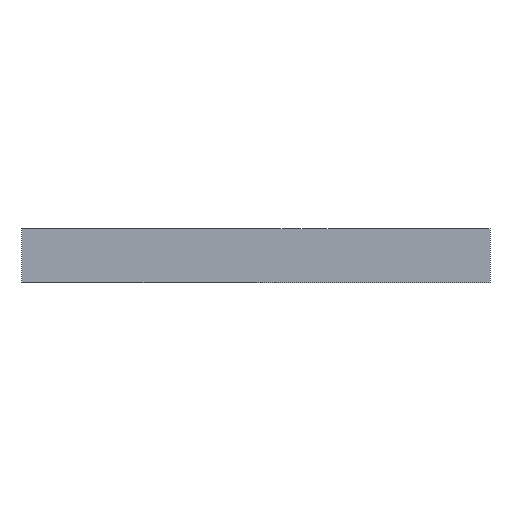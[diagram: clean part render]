
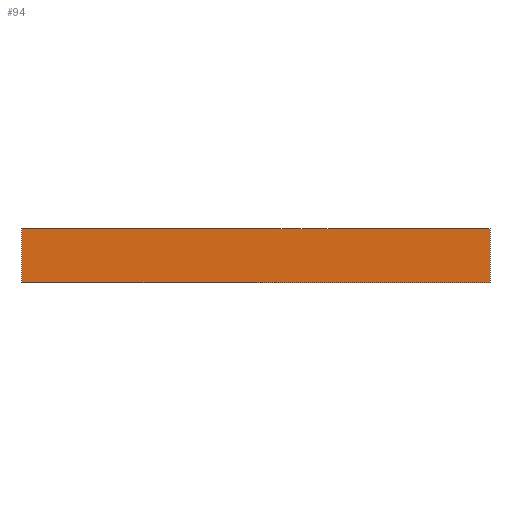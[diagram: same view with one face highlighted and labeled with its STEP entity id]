
A CAD part, front view. The second image highlights one B-rep face of the part: STEP entity #94.
In plain terms, the highlighted planar face has unit normal (0, -1, 0).
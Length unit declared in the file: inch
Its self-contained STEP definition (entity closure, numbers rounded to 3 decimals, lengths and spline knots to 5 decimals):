
#94=ADVANCED_FACE('',(#219),#220,.T.);
#219=FACE_OUTER_BOUND('',#401,.T.);
#220=PLANE('',#402);
#401=EDGE_LOOP('',(#759,#760,#761,#762));
#402=AXIS2_PLACEMENT_3D('',#763,#764,#765);
#759=ORIENTED_EDGE('',*,*,#944,.T.);
#760=ORIENTED_EDGE('',*,*,#945,.F.);
#761=ORIENTED_EDGE('',*,*,#934,.T.);
#762=ORIENTED_EDGE('',*,*,#946,.T.);
#763=CARTESIAN_POINT('',(1.625,0.0,0.0));
#764=DIRECTION('',(0.0,-1.0,0.0));
#765=DIRECTION('',(1.0,0.0,0.0));
#934=EDGE_CURVE('',#1040,#1050,#1052,.T.);
#944=EDGE_CURVE('',#1066,#1067,#1068,.T.);
#945=EDGE_CURVE('',#1040,#1067,#1069,.T.);
#946=EDGE_CURVE('',#1050,#1066,#1070,.T.);
#1040=VERTEX_POINT('',#1229);
#1050=VERTEX_POINT('',#1246);
#1052=LINE('',#1249,#1250);
#1066=VERTEX_POINT('',#1272);
#1067=VERTEX_POINT('',#1273);
#1068=LINE('',#1274,#1275);
#1069=LINE('',#1276,#1277);
#1070=LINE('',#1278,#1279);
#1229=CARTESIAN_POINT('',(0.0,0.0,0.0));
#1246=CARTESIAN_POINT('',(3.25,0.0,0.0));
#1249=CARTESIAN_POINT('',(0.0,0.0,0.0));
#1250=VECTOR('',#1430,1.0);
#1272=CARTESIAN_POINT('',(3.25,0.0,0.375));
#1273=CARTESIAN_POINT('',(0.0,0.0,0.375));
#1274=CARTESIAN_POINT('',(0.0,0.0,0.375));
#1275=VECTOR('',#1436,1.0);
#1276=CARTESIAN_POINT('',(0.0,0.0,0.0));
#1277=VECTOR('',#1437,1.0);
#1278=CARTESIAN_POINT('',(3.25,0.0,0.0));
#1279=VECTOR('',#1438,1.0);
#1430=DIRECTION('',(1.0,0.0,0.0));
#1436=DIRECTION('',(-1.0,-0.0,-0.0));
#1437=DIRECTION('',(0.0,0.0,1.0));
#1438=DIRECTION('',(0.0,0.0,1.0));
